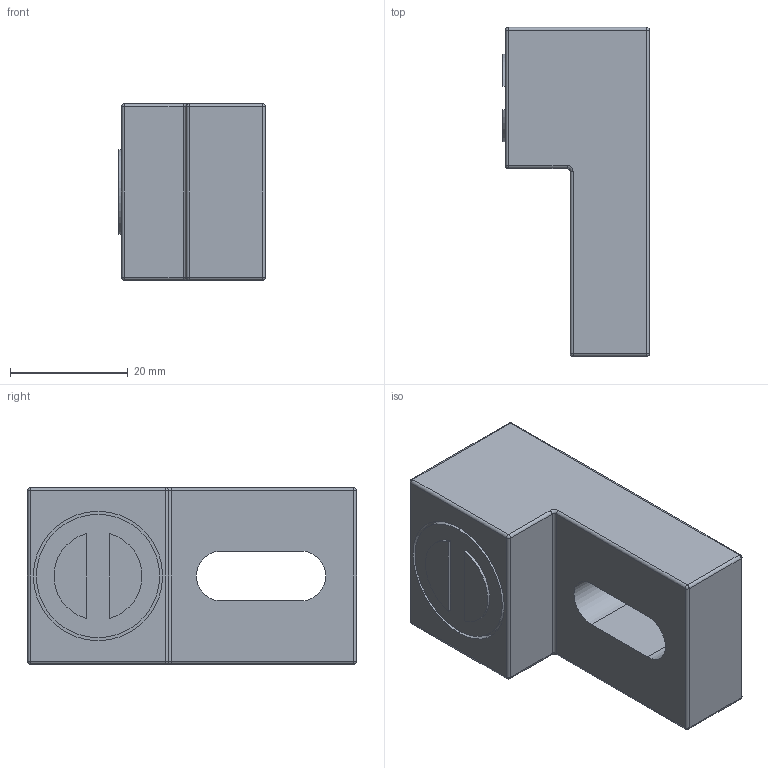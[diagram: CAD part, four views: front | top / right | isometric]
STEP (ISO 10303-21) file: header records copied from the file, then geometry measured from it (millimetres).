
FILE_DESCRIPTION (( 'STEP AP203' ), '1' );
FILE_NAME ('1.48.21.0002-fermo-porta-magnete-Milper.STEP', '2019-05-02T14:15:14', ( '' ), ( '' ), 'SwSTEP 2.0', 'SolidWorks 2019', '' );
FILE_SCHEMA (( 'CONFIG_CONTROL_DESIGN' ));
Length unit declared in the file: millimetre
Products named in the file (1): 1.48.21.0002-fermo-porta-magnete-Milper
Bounding box: 25 x 56 x 30 mm (x, y, z)
Volume: 27448.6 mm3; surface area: 9928.6 mm2
Topology: 1 solids, 1 shells, 63 faces, 138 edges, 74 vertices
Faces by surface type: cylinder 32, plane 19, sphere 10, torus 2
Entity records: 1717 total; most frequent: DIRECTION 322, CARTESIAN_POINT 266, ORIENTED_EDGE 256, AXIS2_PLACEMENT_3D 130, EDGE_CURVE 128, VERTEX_POINT 74, EDGE_LOOP 72, CIRCLE 66
